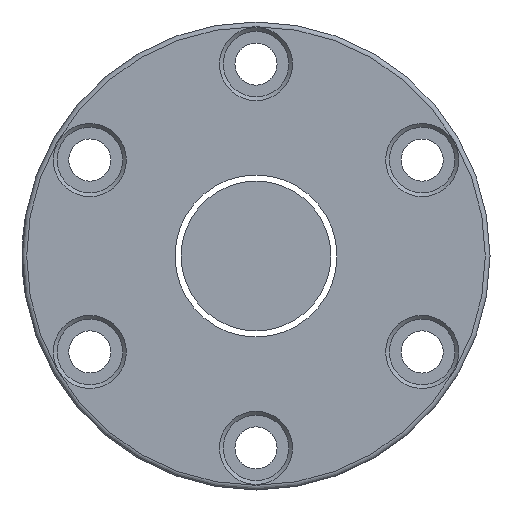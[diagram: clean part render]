
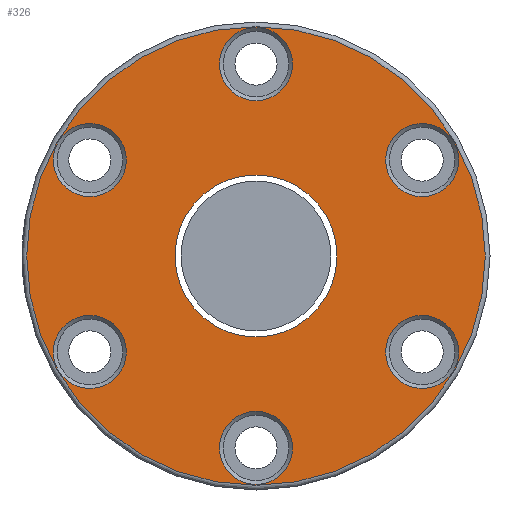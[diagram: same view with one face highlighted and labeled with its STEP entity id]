
A CAD part, left-side view. The second image highlights one B-rep face of the part: STEP entity #326.
In plain terms, the highlighted planar face has unit normal (-1, 0, 0).
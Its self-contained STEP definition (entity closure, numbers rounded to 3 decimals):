
#5 = AXIS2_PLACEMENT_3D ( 'NONE', #1091, #2646, #420 ) ;
#107 = DIRECTION ( 'NONE',  ( 0., 0., 1. ) ) ;
#117 = CIRCLE ( 'NONE', #1815, 17.3 ) ;
#141 = ORIENTED_EDGE ( 'NONE', *, *, #1166, .T. ) ;
#160 = VERTEX_POINT ( 'NONE', #1344 ) ;
#171 = CARTESIAN_POINT ( 'NONE',  ( -75., 50., 0. ) ) ;
#173 = EDGE_CURVE ( 'NONE', #1453, #1453, #117, .T. ) ;
#195 = CARTESIAN_POINT ( 'NONE',  ( -75., -35.507, -20.5 ) ) ;
#248 = EDGE_LOOP ( 'NONE', ( #961 ) ) ;
#326 = ADVANCED_FACE ( 'NONE', ( #2638, #395, #376, #1691, #803, #1707, #1300, #358 ), #1966, .T. ) ;
#358 = FACE_BOUND ( 'NONE', #1051, .T. ) ;
#376 = FACE_BOUND ( 'NONE', #1922, .T. ) ;
#395 = FACE_BOUND ( 'NONE', #1034, .T. ) ;
#401 = VERTEX_POINT ( 'NONE', #2211 ) ;
#406 = CARTESIAN_POINT ( 'NONE',  ( -75., -35.507, 20.5 ) ) ;
#415 = CARTESIAN_POINT ( 'NONE',  ( -75., 0., -41. ) ) ;
#420 = DIRECTION ( 'NONE',  ( 0., 0., 1. ) ) ;
#435 = CIRCLE ( 'NONE', #1105, 7.8 ) ;
#498 = ORIENTED_EDGE ( 'NONE', *, *, #173, .T. ) ;
#599 = ORIENTED_EDGE ( 'NONE', *, *, #2671, .T. ) ;
#633 = DIRECTION ( 'NONE',  ( 1., 0., 0. ) ) ;
#648 = CARTESIAN_POINT ( 'NONE',  ( -75., 35.507, 20.5 ) ) ;
#658 = CARTESIAN_POINT ( 'NONE',  ( -75., 35.507, -12.7 ) ) ;
#683 = AXIS2_PLACEMENT_3D ( 'NONE', #796, #2384, #1438 ) ;
#796 = CARTESIAN_POINT ( 'NONE',  ( -75., 0., 41. ) ) ;
#803 = FACE_BOUND ( 'NONE', #2031, .T. ) ;
#813 = CIRCLE ( 'NONE', #5, 7.8 ) ;
#820 = EDGE_CURVE ( 'NONE', #2846, #2846, #2206, .T. ) ;
#844 = ORIENTED_EDGE ( 'NONE', *, *, #2151, .T. ) ;
#846 = CARTESIAN_POINT ( 'NONE',  ( -75., -35.507, -12.7 ) ) ;
#961 = ORIENTED_EDGE ( 'NONE', *, *, #820, .T. ) ;
#1034 = EDGE_LOOP ( 'NONE', ( #141 ) ) ;
#1051 = EDGE_LOOP ( 'NONE', ( #498 ) ) ;
#1083 = DIRECTION ( 'NONE',  ( -1., 0., 0. ) ) ;
#1091 = CARTESIAN_POINT ( 'NONE',  ( -75., 35.507, -20.5 ) ) ;
#1105 = AXIS2_PLACEMENT_3D ( 'NONE', #406, #1541, #2678 ) ;
#1126 = CARTESIAN_POINT ( 'NONE',  ( -75., 0., 0. ) ) ;
#1138 = DIRECTION ( 'NONE',  ( -1., 0., 0. ) ) ;
#1139 = VERTEX_POINT ( 'NONE', #658 ) ;
#1166 = EDGE_CURVE ( 'NONE', #1522, #1522, #1672, .T. ) ;
#1205 = AXIS2_PLACEMENT_3D ( 'NONE', #171, #1083, #107 ) ;
#1208 = CIRCLE ( 'NONE', #2873, 7.8 ) ;
#1300 = FACE_BOUND ( 'NONE', #1939, .T. ) ;
#1311 = DIRECTION ( 'NONE',  ( 0., 0., 1. ) ) ;
#1344 = CARTESIAN_POINT ( 'NONE',  ( -75., 35.507, 28.3 ) ) ;
#1438 = DIRECTION ( 'NONE',  ( 0., 0., 1. ) ) ;
#1453 = VERTEX_POINT ( 'NONE', #2598 ) ;
#1522 = VERTEX_POINT ( 'NONE', #846 ) ;
#1525 = CIRCLE ( 'NONE', #2854, 7.8 ) ;
#1532 = EDGE_CURVE ( 'NONE', #401, #401, #2063, .T. ) ;
#1541 = DIRECTION ( 'NONE',  ( 1., 0., 0. ) ) ;
#1634 = EDGE_LOOP ( 'NONE', ( #1814 ) ) ;
#1665 = ORIENTED_EDGE ( 'NONE', *, *, #2578, .T. ) ;
#1672 = CIRCLE ( 'NONE', #2017, 7.8 ) ;
#1691 = FACE_BOUND ( 'NONE', #1634, .T. ) ;
#1707 = FACE_BOUND ( 'NONE', #2303, .T. ) ;
#1763 = DIRECTION ( 'NONE',  ( 0., 0., -1. ) ) ;
#1814 = ORIENTED_EDGE ( 'NONE', *, *, #1532, .T. ) ;
#1815 = AXIS2_PLACEMENT_3D ( 'NONE', #2428, #2892, #1763 ) ;
#1839 = CARTESIAN_POINT ( 'NONE',  ( -75., -35.507, 28.3 ) ) ;
#1922 = EDGE_LOOP ( 'NONE', ( #2345 ) ) ;
#1939 = EDGE_LOOP ( 'NONE', ( #844 ) ) ;
#1966 = PLANE ( 'NONE',  #1205 ) ;
#2002 = DIRECTION ( 'NONE',  ( 0., 0., 1. ) ) ;
#2010 = DIRECTION ( 'NONE',  ( 1., 0., 0. ) ) ;
#2017 = AXIS2_PLACEMENT_3D ( 'NONE', #195, #2010, #2911 ) ;
#2031 = EDGE_LOOP ( 'NONE', ( #1665 ) ) ;
#2055 = VERTEX_POINT ( 'NONE', #1839 ) ;
#2063 = CIRCLE ( 'NONE', #683, 7.8 ) ;
#2104 = AXIS2_PLACEMENT_3D ( 'NONE', #1126, #1138, #2743 ) ;
#2151 = EDGE_CURVE ( 'NONE', #2864, #2864, #1208, .T. ) ;
#2206 = CIRCLE ( 'NONE', #2104, 49. ) ;
#2211 = CARTESIAN_POINT ( 'NONE',  ( -75., 0., 48.8 ) ) ;
#2303 = EDGE_LOOP ( 'NONE', ( #599 ) ) ;
#2345 = ORIENTED_EDGE ( 'NONE', *, *, #2684, .T. ) ;
#2384 = DIRECTION ( 'NONE',  ( 1., 0., 0. ) ) ;
#2428 = CARTESIAN_POINT ( 'NONE',  ( -75., 0., 0. ) ) ;
#2578 = EDGE_CURVE ( 'NONE', #160, #160, #1525, .T. ) ;
#2598 = CARTESIAN_POINT ( 'NONE',  ( -75., 0., -17.3 ) ) ;
#2613 = CARTESIAN_POINT ( 'NONE',  ( -75., 0., -33.2 ) ) ;
#2638 = FACE_OUTER_BOUND ( 'NONE', #248, .T. ) ;
#2646 = DIRECTION ( 'NONE',  ( 1., 0., 0. ) ) ;
#2671 = EDGE_CURVE ( 'NONE', #1139, #1139, #813, .T. ) ;
#2678 = DIRECTION ( 'NONE',  ( 0., 0., 1. ) ) ;
#2684 = EDGE_CURVE ( 'NONE', #2055, #2055, #435, .T. ) ;
#2743 = DIRECTION ( 'NONE',  ( 0., 0., 1. ) ) ;
#2846 = VERTEX_POINT ( 'NONE', #2906 ) ;
#2854 = AXIS2_PLACEMENT_3D ( 'NONE', #648, #633, #1311 ) ;
#2864 = VERTEX_POINT ( 'NONE', #2613 ) ;
#2873 = AXIS2_PLACEMENT_3D ( 'NONE', #415, #2905, #2002 ) ;
#2892 = DIRECTION ( 'NONE',  ( 1., 0., 0. ) ) ;
#2905 = DIRECTION ( 'NONE',  ( 1., 0., 0. ) ) ;
#2906 = CARTESIAN_POINT ( 'NONE',  ( -75., 0., 49. ) ) ;
#2911 = DIRECTION ( 'NONE',  ( 0., 0., 1. ) ) ;
